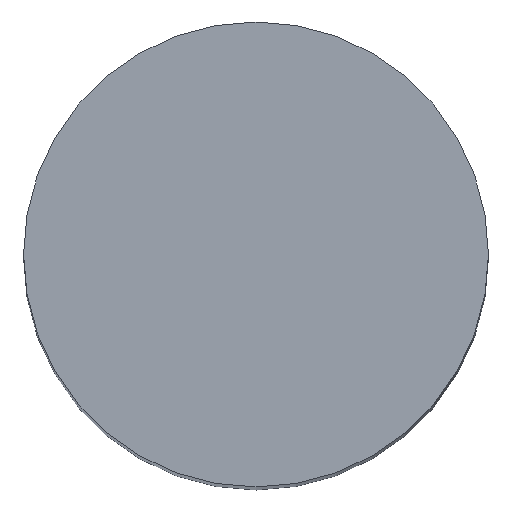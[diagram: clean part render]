
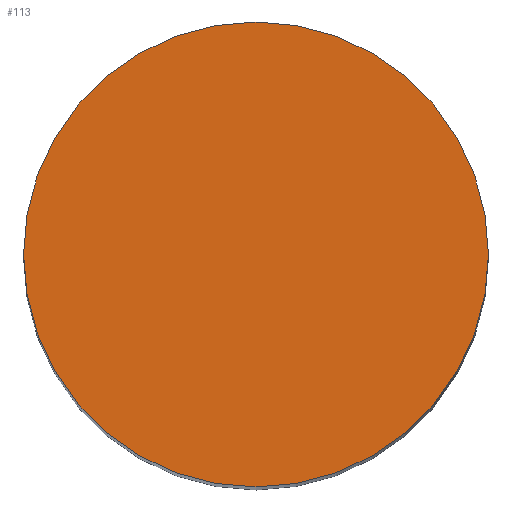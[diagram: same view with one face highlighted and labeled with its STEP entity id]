
A CAD part, top view. The second image highlights one B-rep face of the part: STEP entity #113.
In plain terms, the highlighted planar face has unit normal (0, 0, 1).
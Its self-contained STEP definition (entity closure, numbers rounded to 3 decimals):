
#21 = EDGE_CURVE('',#22,#22,#24,.T.);
#22 = VERTEX_POINT('',#23);
#23 = CARTESIAN_POINT('',(26.96,65.,17.8));
#24 = SURFACE_CURVE('',#25,(#30,#42),.PCURVE_S1.);
#25 = CIRCLE('',#26,0.75);
#26 = AXIS2_PLACEMENT_3D('',#27,#28,#29);
#27 = CARTESIAN_POINT('',(27.71,65.,17.8));
#28 = DIRECTION('',(0.,0.,-1.));
#29 = DIRECTION('',(-1.,-0.,-0.));
#30 = PCURVE('',#31,#36);
#31 = CYLINDRICAL_SURFACE('',#32,0.75);
#32 = AXIS2_PLACEMENT_3D('',#33,#34,#35);
#33 = CARTESIAN_POINT('',(27.71,65.,12.2));
#34 = DIRECTION('',(-0.,-0.,1.));
#35 = DIRECTION('',(-1.,-0.,-0.));
#36 = DEFINITIONAL_REPRESENTATION('',(#37),#41);
#37 = LINE('',#38,#39);
#38 = CARTESIAN_POINT('',(-0.,5.6));
#39 = VECTOR('',#40,1.);
#40 = DIRECTION('',(-1.,0.));
#41 = ( GEOMETRIC_REPRESENTATION_CONTEXT(2) 
PARAMETRIC_REPRESENTATION_CONTEXT() REPRESENTATION_CONTEXT('2D SPACE',''
  ) );
#42 = PCURVE('',#43,#48);
#43 = PLANE('',#44);
#44 = AXIS2_PLACEMENT_3D('',#45,#46,#47);
#45 = CARTESIAN_POINT('',(27.71,65.,17.8));
#46 = DIRECTION('',(-0.,-0.,1.));
#47 = DIRECTION('',(1.,0.,0.));
#48 = DEFINITIONAL_REPRESENTATION('',(#49),#57);
#49 = ( BOUNDED_CURVE() B_SPLINE_CURVE(2,(#50,#51,#52,#53,#54,#55,#56),
.UNSPECIFIED.,.T.,.F.) B_SPLINE_CURVE_WITH_KNOTS((1,2,2,2,2,1),(
    -2.094,0.,2.094,4.189,6.283,
8.378),.UNSPECIFIED.) CURVE() GEOMETRIC_REPRESENTATION_ITEM() 
RATIONAL_B_SPLINE_CURVE((1.,0.5,1.,0.5,1.,0.5,1.)) REPRESENTATION_ITEM(
  '') );
#50 = CARTESIAN_POINT('',(-0.75,0.));
#51 = CARTESIAN_POINT('',(-0.75,1.299));
#52 = CARTESIAN_POINT('',(0.375,0.65));
#53 = CARTESIAN_POINT('',(1.5,0.));
#54 = CARTESIAN_POINT('',(0.375,-0.65));
#55 = CARTESIAN_POINT('',(-0.75,-1.299));
#56 = CARTESIAN_POINT('',(-0.75,0.));
#57 = ( GEOMETRIC_REPRESENTATION_CONTEXT(2) 
PARAMETRIC_REPRESENTATION_CONTEXT() REPRESENTATION_CONTEXT('2D SPACE',''
  ) );
#113 = ADVANCED_FACE('',(#114),#43,.T.);
#114 = FACE_BOUND('',#115,.F.);
#115 = EDGE_LOOP('',(#116));
#116 = ORIENTED_EDGE('',*,*,#21,.T.);
